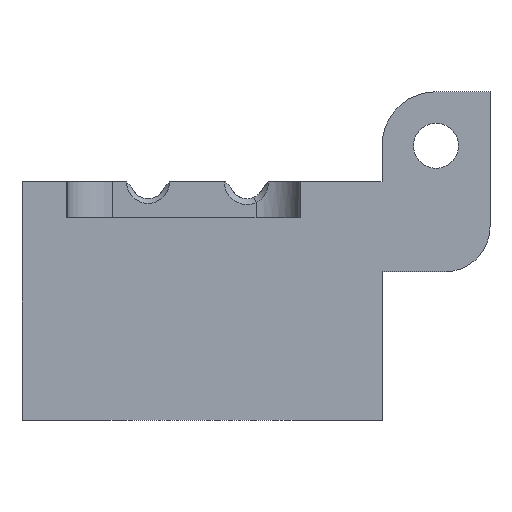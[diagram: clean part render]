
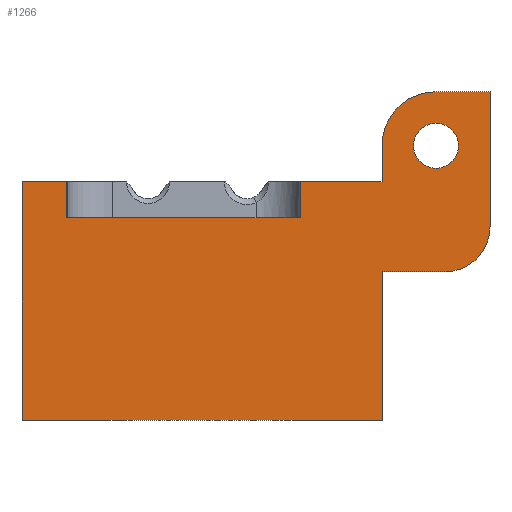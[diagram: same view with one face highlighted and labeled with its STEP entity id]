
A CAD part, left-side view. The second image highlights one B-rep face of the part: STEP entity #1266.
In plain terms, the highlighted planar face has unit normal (-1, 0, 0).
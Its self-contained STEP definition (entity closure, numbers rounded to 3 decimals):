
#19 = CARTESIAN_POINT ( 'NONE',  ( -20., 20., -26.5 ) ) ;
#40 = EDGE_CURVE ( 'NONE', #1314, #485, #110, .T. ) ;
#69 = DIRECTION ( 'NONE',  ( 0., 0., -1. ) ) ;
#110 = LINE ( 'NONE', #1176, #1161 ) ;
#173 = EDGE_CURVE ( 'NONE', #1438, #335, #914, .T. ) ;
#251 = DIRECTION ( 'NONE',  ( 0., 0., 1. ) ) ;
#289 = EDGE_CURVE ( 'NONE', #872, #1810, #1580, .T. ) ;
#294 = DIRECTION ( 'NONE',  ( -1., 0., 0. ) ) ;
#311 = LINE ( 'NONE', #1549, #1781 ) ;
#318 = VERTEX_POINT ( 'NONE', #1248 ) ;
#319 = CARTESIAN_POINT ( 'NONE',  ( -20., -20., -10. ) ) ;
#335 = VERTEX_POINT ( 'NONE', #1532 ) ;
#358 = CARTESIAN_POINT ( 'NONE',  ( -20., -11., -4. ) ) ;
#362 = ORIENTED_EDGE ( 'NONE', *, *, #1796, .F. ) ;
#405 = CIRCLE ( 'NONE', #1757, 2.5 ) ;
#413 = ORIENTED_EDGE ( 'NONE', *, *, #289, .T. ) ;
#441 = ORIENTED_EDGE ( 'NONE', *, *, #766, .T. ) ;
#449 = VECTOR ( 'NONE', #2317, 1000. ) ;
#452 = DIRECTION ( 'NONE',  ( 0., 0., 1. ) ) ;
#466 = CARTESIAN_POINT ( 'NONE',  ( -20., -20., 4. ) ) ;
#485 = VERTEX_POINT ( 'NONE', #1786 ) ;
#500 = CARTESIAN_POINT ( 'NONE',  ( -20., -20., -26.5 ) ) ;
#504 = LINE ( 'NONE', #1182, #1925 ) ;
#535 = EDGE_CURVE ( 'NONE', #1970, #318, #504, .T. ) ;
#542 = EDGE_LOOP ( 'NONE', ( #1493, #441 ) ) ;
#570 = LINE ( 'NONE', #2268, #1671 ) ;
#604 = ORIENTED_EDGE ( 'NONE', *, *, #2297, .F. ) ;
#626 = VERTEX_POINT ( 'NONE', #1200 ) ;
#627 = CARTESIAN_POINT ( 'NONE',  ( -20., -26., 6.5 ) ) ;
#704 = VECTOR ( 'NONE', #1163, 1000. ) ;
#710 = CARTESIAN_POINT ( 'NONE',  ( -20., -26., 4. ) ) ;
#727 = DIRECTION ( 'NONE',  ( 0., -1., 0. ) ) ;
#756 = AXIS2_PLACEMENT_3D ( 'NONE', #1935, #294, #1712 ) ;
#758 = VERTEX_POINT ( 'NONE', #500 ) ;
#766 = EDGE_CURVE ( 'NONE', #2067, #2057, #2552, .T. ) ;
#844 = LINE ( 'NONE', #2368, #1968 ) ;
#862 = ORIENTED_EDGE ( 'NONE', *, *, #40, .F. ) ;
#872 = VERTEX_POINT ( 'NONE', #2366 ) ;
#890 = VERTEX_POINT ( 'NONE', #2177 ) ;
#904 = DIRECTION ( 'NONE',  ( 0., -1., 0. ) ) ;
#906 = ORIENTED_EDGE ( 'NONE', *, *, #173, .T. ) ;
#914 = LINE ( 'NONE', #2118, #449 ) ;
#916 = DIRECTION ( 'NONE',  ( -1., 0., 0. ) ) ;
#940 = ORIENTED_EDGE ( 'NONE', *, *, #2447, .T. ) ;
#953 = DIRECTION ( 'NONE',  ( 0., 1., 0. ) ) ;
#980 = CARTESIAN_POINT ( 'NONE',  ( -20., 15., -4. ) ) ;
#1019 = CARTESIAN_POINT ( 'NONE',  ( -20., -20., -26.5 ) ) ;
#1042 = ORIENTED_EDGE ( 'NONE', *, *, #1838, .T. ) ;
#1101 = ORIENTED_EDGE ( 'NONE', *, *, #1292, .T. ) ;
#1102 = DIRECTION ( 'NONE',  ( 1., 0., 0. ) ) ;
#1106 = EDGE_CURVE ( 'NONE', #626, #485, #2091, .T. ) ;
#1122 = CARTESIAN_POINT ( 'NONE',  ( -20., -26., 10. ) ) ;
#1152 = EDGE_CURVE ( 'NONE', #1424, #1287, #570, .T. ) ;
#1156 = CARTESIAN_POINT ( 'NONE',  ( -20., -32., 10. ) ) ;
#1160 = VECTOR ( 'NONE', #727, 1000. ) ;
#1161 = VECTOR ( 'NONE', #2098, 1000. ) ;
#1163 = DIRECTION ( 'NONE',  ( 0., 0., 1. ) ) ;
#1176 = CARTESIAN_POINT ( 'NONE',  ( -20., 20., 0. ) ) ;
#1182 = CARTESIAN_POINT ( 'NONE',  ( -20., -11., -4. ) ) ;
#1200 = CARTESIAN_POINT ( 'NONE',  ( -20., 15., -4. ) ) ;
#1210 = EDGE_CURVE ( 'NONE', #2057, #2067, #405, .T. ) ;
#1229 = DIRECTION ( 'NONE',  ( 0., 0., 1. ) ) ;
#1248 = CARTESIAN_POINT ( 'NONE',  ( -20., -11., 0. ) ) ;
#1266 = ADVANCED_FACE ( 'NONE', ( #1839, #2623 ), #1503, .T. ) ;
#1268 = DIRECTION ( 'NONE',  ( 1., 0., 0. ) ) ;
#1287 = VERTEX_POINT ( 'NONE', #1297 ) ;
#1292 = EDGE_CURVE ( 'NONE', #1742, #1438, #2027, .T. ) ;
#1297 = CARTESIAN_POINT ( 'NONE',  ( -20., -32., 10. ) ) ;
#1298 = LINE ( 'NONE', #1156, #2333 ) ;
#1314 = VERTEX_POINT ( 'NONE', #1522 ) ;
#1319 = ORIENTED_EDGE ( 'NONE', *, *, #1325, .T. ) ;
#1325 = EDGE_CURVE ( 'NONE', #1810, #1424, #2179, .T. ) ;
#1328 = CARTESIAN_POINT ( 'NONE',  ( -20., -26., 1.5 ) ) ;
#1391 = DIRECTION ( 'NONE',  ( 0., 0., 1. ) ) ;
#1424 = VERTEX_POINT ( 'NONE', #1552 ) ;
#1438 = VERTEX_POINT ( 'NONE', #466 ) ;
#1449 = VECTOR ( 'NONE', #1229, 1000. ) ;
#1478 = AXIS2_PLACEMENT_3D ( 'NONE', #710, #2130, #904 ) ;
#1481 = ORIENTED_EDGE ( 'NONE', *, *, #535, .F. ) ;
#1490 = DIRECTION ( 'NONE',  ( 0., -1., 0. ) ) ;
#1493 = ORIENTED_EDGE ( 'NONE', *, *, #1210, .T. ) ;
#1503 = PLANE ( 'NONE',  #756 ) ;
#1522 = CARTESIAN_POINT ( 'NONE',  ( -20., 20., 0. ) ) ;
#1532 = CARTESIAN_POINT ( 'NONE',  ( -20., -20., 0. ) ) ;
#1549 = CARTESIAN_POINT ( 'NONE',  ( -20., 20., 0. ) ) ;
#1552 = CARTESIAN_POINT ( 'NONE',  ( -20., -32., -5. ) ) ;
#1580 = LINE ( 'NONE', #319, #1160 ) ;
#1605 = DIRECTION ( 'NONE',  ( 0., -1., 0. ) ) ;
#1671 = VECTOR ( 'NONE', #452, 1000. ) ;
#1687 = LINE ( 'NONE', #1019, #704 ) ;
#1712 = DIRECTION ( 'NONE',  ( 0., -1., 0. ) ) ;
#1742 = VERTEX_POINT ( 'NONE', #1122 ) ;
#1757 = AXIS2_PLACEMENT_3D ( 'NONE', #2495, #1268, #69 ) ;
#1759 = LINE ( 'NONE', #19, #2305 ) ;
#1781 = VECTOR ( 'NONE', #1490, 1000. ) ;
#1786 = CARTESIAN_POINT ( 'NONE',  ( -20., 15., 0. ) ) ;
#1796 = EDGE_CURVE ( 'NONE', #890, #1314, #844, .T. ) ;
#1802 = EDGE_CURVE ( 'NONE', #318, #335, #311, .T. ) ;
#1808 = ORIENTED_EDGE ( 'NONE', *, *, #1152, .T. ) ;
#1810 = VERTEX_POINT ( 'NONE', #2198 ) ;
#1838 = EDGE_CURVE ( 'NONE', #758, #872, #1687, .T. ) ;
#1839 = FACE_BOUND ( 'NONE', #542, .T. ) ;
#1895 = ORIENTED_EDGE ( 'NONE', *, *, #1802, .F. ) ;
#1904 = ORIENTED_EDGE ( 'NONE', *, *, #2191, .T. ) ;
#1908 = ORIENTED_EDGE ( 'NONE', *, *, #1106, .T. ) ;
#1925 = VECTOR ( 'NONE', #1391, 1000. ) ;
#1935 = CARTESIAN_POINT ( 'NONE',  ( -20., 20., -26.5 ) ) ;
#1968 = VECTOR ( 'NONE', #251, 1000. ) ;
#1970 = VERTEX_POINT ( 'NONE', #358 ) ;
#2027 = CIRCLE ( 'NONE', #1478, 6. ) ;
#2052 = VECTOR ( 'NONE', #2412, 1000. ) ;
#2057 = VERTEX_POINT ( 'NONE', #1328 ) ;
#2067 = VERTEX_POINT ( 'NONE', #627 ) ;
#2091 = LINE ( 'NONE', #2456, #1449 ) ;
#2098 = DIRECTION ( 'NONE',  ( 0., -1., 0. ) ) ;
#2118 = CARTESIAN_POINT ( 'NONE',  ( -20., -20., 10. ) ) ;
#2130 = DIRECTION ( 'NONE',  ( -1., 0., 0. ) ) ;
#2138 = CARTESIAN_POINT ( 'NONE',  ( -20., -27., -5. ) ) ;
#2149 = AXIS2_PLACEMENT_3D ( 'NONE', #2329, #1102, #2531 ) ;
#2177 = CARTESIAN_POINT ( 'NONE',  ( -20., 20., -26.5 ) ) ;
#2179 = CIRCLE ( 'NONE', #2256, 5. ) ;
#2191 = EDGE_CURVE ( 'NONE', #890, #758, #1759, .T. ) ;
#2198 = CARTESIAN_POINT ( 'NONE',  ( -20., -27., -10. ) ) ;
#2256 = AXIS2_PLACEMENT_3D ( 'NONE', #2138, #916, #2345 ) ;
#2268 = CARTESIAN_POINT ( 'NONE',  ( -20., -32., -10. ) ) ;
#2297 = EDGE_CURVE ( 'NONE', #626, #1970, #2587, .T. ) ;
#2305 = VECTOR ( 'NONE', #1605, 1000. ) ;
#2317 = DIRECTION ( 'NONE',  ( 0., 0., -1. ) ) ;
#2329 = CARTESIAN_POINT ( 'NONE',  ( -20., -26., 4. ) ) ;
#2333 = VECTOR ( 'NONE', #953, 1000. ) ;
#2345 = DIRECTION ( 'NONE',  ( 0., -1., 0. ) ) ;
#2366 = CARTESIAN_POINT ( 'NONE',  ( -20., -20., -10. ) ) ;
#2368 = CARTESIAN_POINT ( 'NONE',  ( -20., 20., -26.5 ) ) ;
#2412 = DIRECTION ( 'NONE',  ( 0., -1., 0. ) ) ;
#2447 = EDGE_CURVE ( 'NONE', #1287, #1742, #1298, .T. ) ;
#2456 = CARTESIAN_POINT ( 'NONE',  ( -20., 15., -4. ) ) ;
#2495 = CARTESIAN_POINT ( 'NONE',  ( -20., -26., 4. ) ) ;
#2517 = EDGE_LOOP ( 'NONE', ( #940, #1101, #906, #1895, #1481, #604, #1908, #862, #362, #1904, #1042, #413, #1319, #1808 ) ) ;
#2531 = DIRECTION ( 'NONE',  ( 0., 0., -1. ) ) ;
#2552 = CIRCLE ( 'NONE', #2149, 2.5 ) ;
#2587 = LINE ( 'NONE', #980, #2052 ) ;
#2623 = FACE_OUTER_BOUND ( 'NONE', #2517, .T. ) ;
